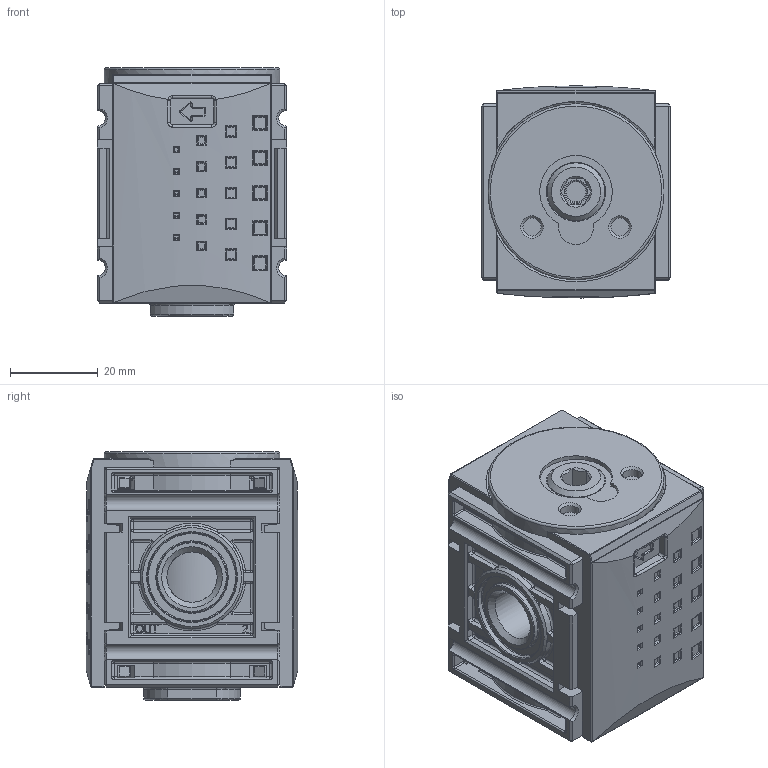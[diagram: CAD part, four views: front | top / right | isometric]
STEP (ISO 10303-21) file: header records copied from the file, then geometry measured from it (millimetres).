
FILE_DESCRIPTION(/* description */ (''),/* implementation_level */ '2;1');
FILE_NAME(/* name */ 'K:\ZEICHNG\Tristan\Steps Björn\035064; KDIS-014.stp',/* time_stamp */ '2022-02-04T11:37:26+01:00',/* author */ ('Tristan.Beckmann'),/* organization */ (''),/* preprocessor_version */ 'ST-DEVELOPER v18',/* originating_system */ 'Autodesk Inventor 2020',/* authorisation */ '');
FILE_SCHEMA (('AUTOMOTIVE_DESIGN { 1 0 10303 214 3 1 1 }'));
Bounding box: 43 x 48.16 x 56.5 mm (x, y, z)
Volume: 73044.5 mm3; surface area: 32318.8 mm2
Topology: 1 solids, 2 shells, 3008 faces, 8050 edges, 5054 vertices
Faces by surface type: plane 1222, cylinder 851, bspline 528, torus 261, sphere 116, cone 30
Full cylindrical faces by diameter (mm): 0.3 x14, 2.4 x4, 3.2 x4, 4.134 x2, 5 x1, 6 x2, 11.445 x3, 13.16 x1, 23.5 x2, 40 x1
Entity records: 148149 total; most frequent: CARTESIAN_POINT 74260, ORIENTED_EDGE 15876, DIRECTION 13082, EDGE_CURVE 7938, VERTEX_POINT 5054, AXIS2_PLACEMENT_3D 4486, LINE 4110, VECTOR 4110
